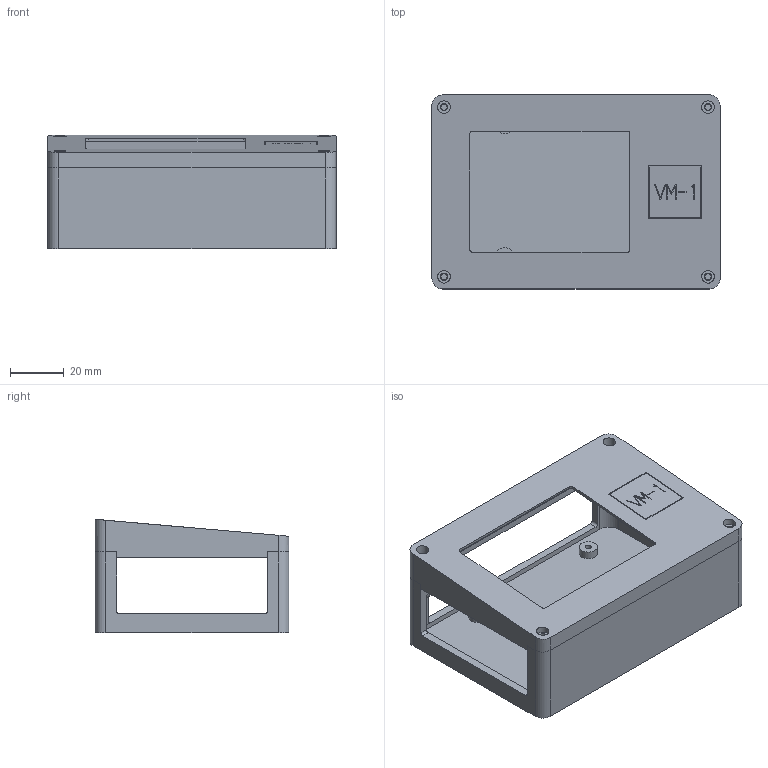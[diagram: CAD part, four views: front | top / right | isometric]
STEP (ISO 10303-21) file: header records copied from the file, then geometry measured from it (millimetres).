
FILE_DESCRIPTION(('HOOPS Exchange Step'),'2;1');
FILE_NAME('/private/var/mobile/Containers/Data/Application/C4B50FAA-999F-405E-AC3A-58B8F7E75112/tmp/export/temp_export','2026-08-21T18:57:41+02:00',('mobile'),('Shapr3D Limited'),'HOOPS Exchange 2025.9','Shapr3D','Authorized');
FILE_SCHEMA( ('AP242_MANAGED_MODEL_BASED_3D_ENGINEERING_MIM_LF {1 0 10303 442 1 1 4}') );
Length unit declared in the file: millimetre
Products named in the file (2): VM-1 Basic Case; root
Assembly tree (1 placements, depth 2):
  root
    VM-1 Basic Case
Bounding box: 107 x 72 x 42.1 mm (x, y, z)
Volume: 62415 mm3; surface area: 44804.9 mm2
Topology: 2 solids, 2 shells, 236 faces, 611 edges, 403 vertices
Faces by surface type: plane 150, cylinder 82, sphere 4
Full cylindrical faces by diameter (mm): 2.3 x12, 2.8 x4, 4.7 x4, 6.8 x4
Entity records: 7543 total; most frequent: CARTESIAN_POINT 1550, DIRECTION 1247, ORIENTED_EDGE 1214, EDGE_CURVE 607, VECTOR 423, LINE 423, AXIS2_PLACEMENT_3D 412, VERTEX_POINT 403
